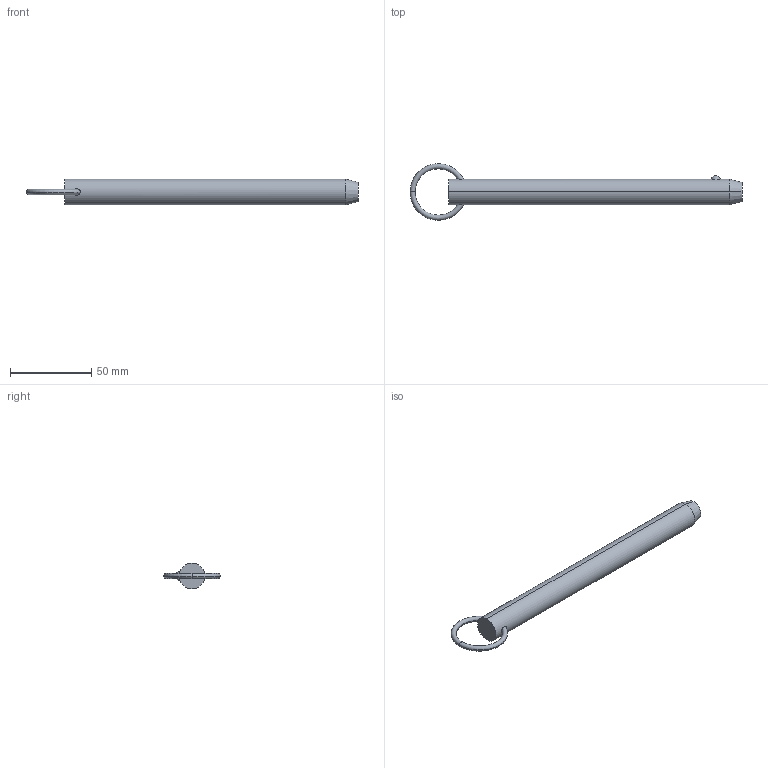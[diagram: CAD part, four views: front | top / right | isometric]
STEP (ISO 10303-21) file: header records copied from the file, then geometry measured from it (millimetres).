
FILE_DESCRIPTION (( 'STEP AP203' ), '1' );
FILE_NAME ('33010.W6260.step', '2024-11-01T10:42:42', ( '' ), ( '' ), 'SwSTEP 2.0', 'SolidWorks 2019', '' );
FILE_SCHEMA (( 'CONFIG_CONTROL_DESIGN' ));
Length unit declared in the file: millimetre
Products named in the file (3): 33010.W6260; Part2_33010.W6260; Part1_33010.W6260
Assembly tree (2 placements, depth 2):
  33010.W6260
    Part1_33010.W6260
    Part2_33010.W6260
Bounding box: 204.91 x 34.93 x 15.88 mm (x, y, z)
Volume: 36130 mm3; surface area: 10492.1 mm2
Topology: 2 solids, 2 shells, 16 faces, 31 edges, 18 vertices
Faces by surface type: torus 8, sphere 2, cone 2, cylinder 2, plane 2
Entity records: 889 total; most frequent: CARTESIAN_POINT 246, DIRECTION 88, ORIENTED_EDGE 62, AXIS2_PLACEMENT_3D 42, EDGE_CURVE 31, PERSON_AND_ORGANIZATION 26, CIRCLE 21, LOCAL_TIME 19
